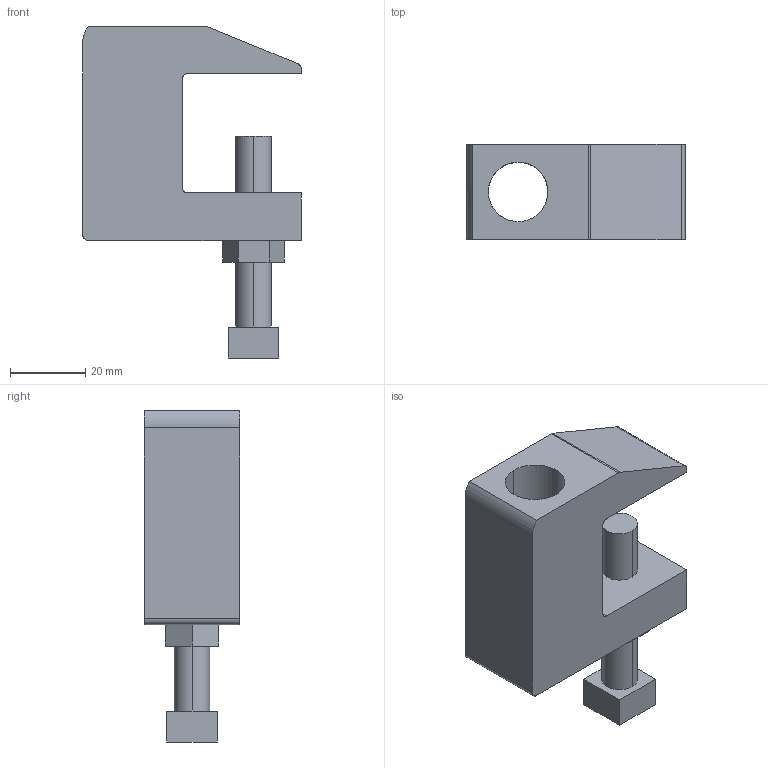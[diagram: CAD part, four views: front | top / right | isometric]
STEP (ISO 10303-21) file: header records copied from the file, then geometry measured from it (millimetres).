
FILE_DESCRIPTION(('TurboCAD Mac Pro'),'Build 980');
FILE_NAME('P2899-62.stp',' ',(''),(''),'ACIS Interop','IMSI','TurboCAD Mac Pro BY IMSI, INCORPORATED');
FILE_SCHEMA(('automotive_design'));
Length unit declared in the file: inch
Products named in the file (3): 1; 2; 3
Bounding box: 58.2 x 25.4 x 88.41 mm (x, y, z)
Volume: 49386.4 mm3; surface area: 17196.9 mm2
Topology: 3 solids, 3 shells, 44 faces, 111 edges, 74 vertices
Faces by surface type: plane 26, bspline 18
Entity records: 1842 total; most frequent: CARTESIAN_POINT 467, ORIENTED_EDGE 222, DIRECTION 139, EDGE_CURVE 111, LINE 75, VECTOR 75, VERTEX_POINT 74, EDGE_LOOP 49
